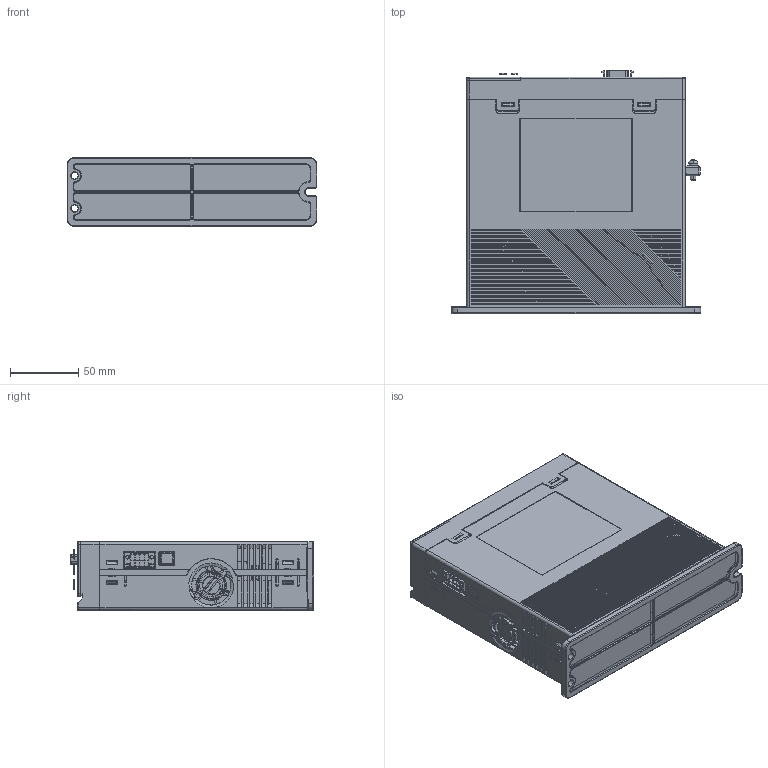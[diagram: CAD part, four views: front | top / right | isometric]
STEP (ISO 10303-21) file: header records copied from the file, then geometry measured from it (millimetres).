
FILE_DESCRIPTION((''),'2;1');
FILE_NAME('23CRN-02-00_B_750W_SW0001','2025-09-30T14:12:53',('wuyh130'),(''),'CREO PARAMETRIC BY PTC INC, 2021063','CREO PARAMETRIC BY PTC INC, 2021063','');
FILE_SCHEMA(('AUTOMOTIVE_DESIGN { 1 0 10303 214 1 1 1 1 }'));
Products named in the file (1): 23CRN-02-00_B_750W_SW0001
Bounding box: 183 x 178.2 x 50 mm (x, y, z)
Surface area: 274179.3 mm2 (no closed solid volume)
Topology: 0 solids, 424 shells, 2699 faces, 15621 edges, 13000 vertices
Faces by surface type: plane 1755, cylinder 627, bspline 123, torus 69, cone 66, extrusion 33, sphere 22, revolution 4
Entity records: 191090 total; most frequent: CARTESIAN_POINT 61517, DIRECTION 20813, ORIENTED_EDGE 19628, EDGE_CURVE 15613, VERTEX_POINT 13002, VECTOR 11204, LINE 11171, AXIS2_PLACEMENT_3D 4801
